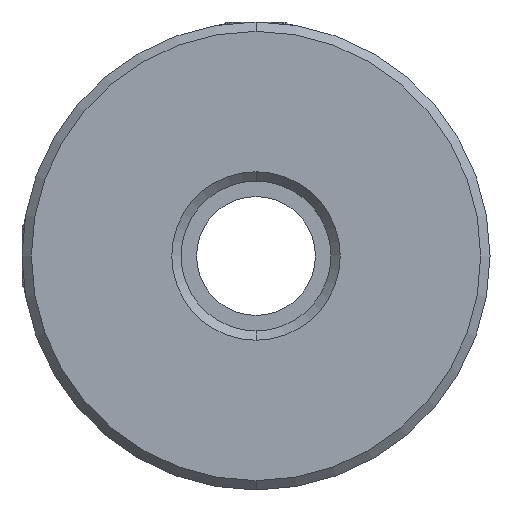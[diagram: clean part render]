
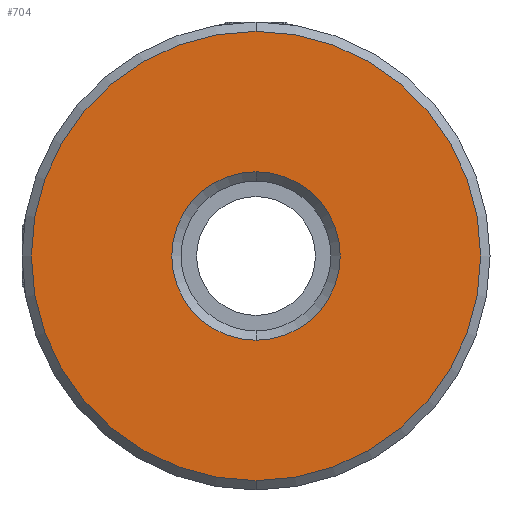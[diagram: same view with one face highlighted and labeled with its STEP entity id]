
A CAD part, front view. The second image highlights one B-rep face of the part: STEP entity #704.
In plain terms, the highlighted planar face has unit normal (0, -1, 0).
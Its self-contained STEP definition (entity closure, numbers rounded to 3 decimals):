
#13 = DIRECTION ( 'NONE',  ( 0., 1., 0. ) ) ;
#35 = VERTEX_POINT ( 'NONE', #2363 ) ;
#47 = VERTEX_POINT ( 'NONE', #974 ) ;
#84 = AXIS2_PLACEMENT_3D ( 'NONE', #1171, #2906, #2270 ) ;
#185 = ORIENTED_EDGE ( 'NONE', *, *, #1108, .T. ) ;
#379 = EDGE_CURVE ( 'NONE', #35, #416, #551, .T. ) ;
#416 = VERTEX_POINT ( 'NONE', #2877 ) ;
#551 = CIRCLE ( 'NONE', #1379, 12. ) ;
#704 = ADVANCED_FACE ( 'NONE', ( #1858, #1554 ), #1041, .F. ) ;
#753 = CIRCLE ( 'NONE', #3355, 4.5 ) ;
#797 = DIRECTION ( 'NONE',  ( 0., -1., 0. ) ) ;
#890 = DIRECTION ( 'NONE',  ( 0., 1., 0. ) ) ;
#971 = DIRECTION ( 'NONE',  ( 0., 0., 1. ) ) ;
#974 = CARTESIAN_POINT ( 'NONE',  ( -10.188, -0.277, 4.546 ) ) ;
#1041 = PLANE ( 'NONE',  #2509 ) ;
#1108 = EDGE_CURVE ( 'NONE', #416, #35, #1627, .T. ) ;
#1171 = CARTESIAN_POINT ( 'NONE',  ( -10.188, -0.277, 0.046 ) ) ;
#1199 = EDGE_LOOP ( 'NONE', ( #2005, #3025 ) ) ;
#1379 = AXIS2_PLACEMENT_3D ( 'NONE', #2428, #797, #1952 ) ;
#1554 = FACE_BOUND ( 'NONE', #1199, .T. ) ;
#1627 = CIRCLE ( 'NONE', #84, 12. ) ;
#1742 = AXIS2_PLACEMENT_3D ( 'NONE', #2312, #890, #2038 ) ;
#1858 = FACE_OUTER_BOUND ( 'NONE', #3460, .T. ) ;
#1952 = DIRECTION ( 'NONE',  ( 0., 0., 1. ) ) ;
#2005 = ORIENTED_EDGE ( 'NONE', *, *, #2507, .T. ) ;
#2038 = DIRECTION ( 'NONE',  ( 0., 0., 1. ) ) ;
#2270 = DIRECTION ( 'NONE',  ( 0., 0., 1. ) ) ;
#2312 = CARTESIAN_POINT ( 'NONE',  ( -10.188, -0.277, 0.046 ) ) ;
#2363 = CARTESIAN_POINT ( 'NONE',  ( -10.188, -0.277, -11.954 ) ) ;
#2428 = CARTESIAN_POINT ( 'NONE',  ( -10.188, -0.277, 0.046 ) ) ;
#2507 = EDGE_CURVE ( 'NONE', #2532, #47, #3245, .T. ) ;
#2509 = AXIS2_PLACEMENT_3D ( 'NONE', #3276, #3291, #971 ) ;
#2532 = VERTEX_POINT ( 'NONE', #3230 ) ;
#2877 = CARTESIAN_POINT ( 'NONE',  ( -10.188, -0.277, 12.046 ) ) ;
#2906 = DIRECTION ( 'NONE',  ( 0., -1., 0. ) ) ;
#3025 = ORIENTED_EDGE ( 'NONE', *, *, #3591, .T. ) ;
#3230 = CARTESIAN_POINT ( 'NONE',  ( -10.188, -0.277, -4.454 ) ) ;
#3245 = CIRCLE ( 'NONE', #1742, 4.5 ) ;
#3276 = CARTESIAN_POINT ( 'NONE',  ( -10.188, -0.277, 0.046 ) ) ;
#3291 = DIRECTION ( 'NONE',  ( 0., 1., 0. ) ) ;
#3355 = AXIS2_PLACEMENT_3D ( 'NONE', #3514, #13, #3531 ) ;
#3460 = EDGE_LOOP ( 'NONE', ( #185, #3659 ) ) ;
#3514 = CARTESIAN_POINT ( 'NONE',  ( -10.188, -0.277, 0.046 ) ) ;
#3531 = DIRECTION ( 'NONE',  ( 0., 0., 1. ) ) ;
#3591 = EDGE_CURVE ( 'NONE', #47, #2532, #753, .T. ) ;
#3659 = ORIENTED_EDGE ( 'NONE', *, *, #379, .T. ) ;
